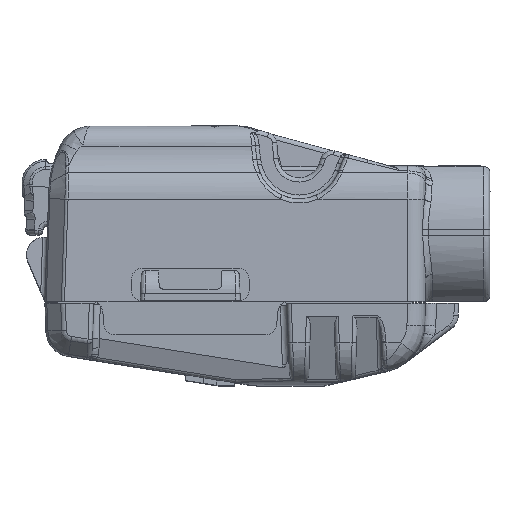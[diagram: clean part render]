
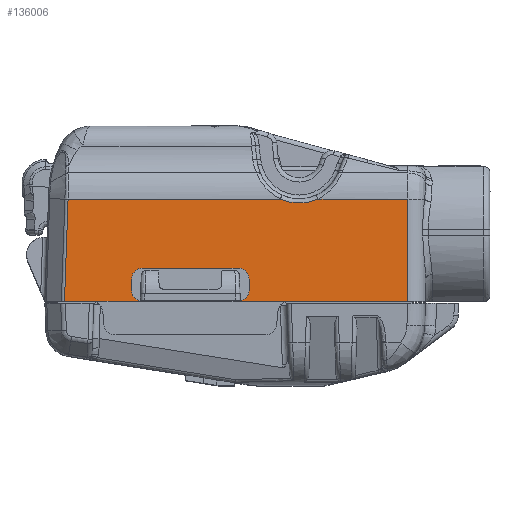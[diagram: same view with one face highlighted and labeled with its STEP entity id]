
A CAD part, top view. The second image highlights one B-rep face of the part: STEP entity #136006.
In plain terms, the highlighted planar face has unit normal (0, 0.018, 1).
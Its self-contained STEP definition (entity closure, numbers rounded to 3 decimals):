
#35521=CARTESIAN_POINT('',(15.8,-1.15,8.05));
#35522=VERTEX_POINT('',#35521);
#35536=CARTESIAN_POINT('',(15.8,-1.15,8.05));
#35541=DIRECTION('',(-1.,0.,0.));
#35546=VECTOR('',#35541,1.);
#35551=LINE('',#35536,#35546);
#35556=CARTESIAN_POINT('',(10.439,-1.15,8.05));
#35557=VERTEX_POINT('',#35556);
#35561=EDGE_CURVE('',#35522,#35557,#35551,.T.);
#135211=CARTESIAN_POINT('',(15.8,3.459,7.97));
#135212=VERTEX_POINT('',#135211);
#135226=CARTESIAN_POINT('',(15.8,-1.15,8.05));
#135231=DIRECTION('',(0.,1.,-0.017));
#135236=VECTOR('',#135231,1.);
#135241=LINE('',#135226,#135236);
#135246=EDGE_CURVE('',#35522,#135212,#135241,.T.);
#135451=DIRECTION('',(-0.,0.017,1.));
#135456=CARTESIAN_POINT('',(0.333,-1.15,8.05));
#135461=DIRECTION('',(1.,0.,0.));
#135466=AXIS2_PLACEMENT_3D('',#135456,#135451,#135461);
#135471=PLANE('',#135466);
#135476=CARTESIAN_POINT('',(15.8,3.459,7.97));
#135481=DIRECTION('',(-1.,0.,0.));
#135486=VECTOR('',#135481,1.);
#135491=LINE('',#135476,#135486);
#135496=CARTESIAN_POINT('',(11.75,3.459,7.97));
#135497=VERTEX_POINT('',#135496);
#135501=EDGE_CURVE('',#135212,#135497,#135491,.T.);
#135506=ORIENTED_EDGE('',*,*,#135501,.T.);
#135511=CARTESIAN_POINT('',(10.9,5.368,7.936));
#135516=DIRECTION('',(0.,0.017,1.));
#135521=DIRECTION('',(-0.407,-0.913,0.016));
#135526=AXIS2_PLACEMENT_3D('',#135511,#135516,#135521);
#135531=CIRCLE('',#135526,2.09);
#135536=CARTESIAN_POINT('',(10.05,3.459,7.97));
#135537=VERTEX_POINT('',#135536);
#135541=EDGE_CURVE('',#135537,#135497,#135531,.T.);
#135546=ORIENTED_EDGE('',*,*,#135541,.F.);
#135551=CARTESIAN_POINT('',(10.05,3.459,7.97));
#135556=DIRECTION('',(-1.,0.,0.));
#135561=VECTOR('',#135556,1.);
#135566=LINE('',#135551,#135561);
#135571=CARTESIAN_POINT('',(0.494,3.459,7.97));
#135572=VERTEX_POINT('',#135571);
#135576=EDGE_CURVE('',#135537,#135572,#135566,.T.);
#135581=ORIENTED_EDGE('',*,*,#135576,.T.);
#135586=CARTESIAN_POINT('',(0.333,-1.15,8.05));
#135591=DIRECTION('',(0.035,0.999,-0.017));
#135596=VECTOR('',#135591,1.);
#135601=LINE('',#135586,#135596);
#135606=CARTESIAN_POINT('',(0.333,-1.15,8.05));
#135607=VERTEX_POINT('',#135606);
#135611=EDGE_CURVE('',#135607,#135572,#135601,.T.);
#135616=ORIENTED_EDGE('',*,*,#135611,.F.);
#135621=CARTESIAN_POINT('',(1.561,-1.15,8.05));
#135626=DIRECTION('',(-1.,0.,0.));
#135631=VECTOR('',#135626,1.);
#135636=LINE('',#135621,#135631);
#135641=CARTESIAN_POINT('',(1.561,-1.15,8.05));
#135642=VERTEX_POINT('',#135641);
#135646=EDGE_CURVE('',#135642,#135607,#135636,.T.);
#135651=ORIENTED_EDGE('',*,*,#135646,.F.);
#135656=CARTESIAN_POINT('',(3.85,-1.15,8.05));
#135661=DIRECTION('',(-1.,0.,0.));
#135666=VECTOR('',#135661,1.);
#135671=LINE('',#135656,#135666);
#135676=CARTESIAN_POINT('',(3.85,-1.15,8.05));
#135677=VERTEX_POINT('',#135676);
#135681=EDGE_CURVE('',#135677,#135642,#135671,.T.);
#135686=ORIENTED_EDGE('',*,*,#135681,.F.);
#135691=CARTESIAN_POINT('',(3.849,-0.651,8.041));
#135696=DIRECTION('',(0.,0.017,1.));
#135701=DIRECTION('',(-1.,0.001,0.));
#135706=AXIS2_PLACEMENT_3D('',#135691,#135696,#135701);
#135711=CIRCLE('',#135706,0.499);
#135716=CARTESIAN_POINT('',(3.35,-0.65,8.041));
#135717=VERTEX_POINT('',#135716);
#135721=EDGE_CURVE('',#135717,#135677,#135711,.T.);
#135726=ORIENTED_EDGE('',*,*,#135721,.F.);
#135731=CARTESIAN_POINT('',(3.35,-0.15,8.033));
#135736=DIRECTION('',(0.,-1.,0.017));
#135741=VECTOR('',#135736,1.);
#135746=LINE('',#135731,#135741);
#135751=CARTESIAN_POINT('',(3.35,-0.15,8.033));
#135752=VERTEX_POINT('',#135751);
#135756=EDGE_CURVE('',#135752,#135717,#135746,.T.);
#135761=ORIENTED_EDGE('',*,*,#135756,.F.);
#135766=CARTESIAN_POINT('',(3.85,-0.15,8.033));
#135771=DIRECTION('',(0.,0.017,1.));
#135776=DIRECTION('',(0.,1.,-0.017));
#135781=AXIS2_PLACEMENT_3D('',#135766,#135771,#135776);
#135786=CIRCLE('',#135781,0.5);
#135791=CARTESIAN_POINT('',(3.85,0.35,8.024));
#135792=VERTEX_POINT('',#135791);
#135796=EDGE_CURVE('',#135792,#135752,#135786,.T.);
#135801=ORIENTED_EDGE('',*,*,#135796,.F.);
#135806=CARTESIAN_POINT('',(8.15,0.35,8.024));
#135811=DIRECTION('',(-1.,0.,0.));
#135816=VECTOR('',#135811,1.);
#135821=LINE('',#135806,#135816);
#135826=CARTESIAN_POINT('',(8.15,0.35,8.024));
#135827=VERTEX_POINT('',#135826);
#135831=EDGE_CURVE('',#135827,#135792,#135821,.T.);
#135836=ORIENTED_EDGE('',*,*,#135831,.F.);
#135841=CARTESIAN_POINT('',(8.151,-0.149,8.033));
#135846=DIRECTION('',(0.,0.017,1.));
#135851=DIRECTION('',(1.,-0.001,0.));
#135856=AXIS2_PLACEMENT_3D('',#135841,#135846,#135851);
#135861=CIRCLE('',#135856,0.499);
#135866=CARTESIAN_POINT('',(8.65,-0.15,8.033));
#135867=VERTEX_POINT('',#135866);
#135871=EDGE_CURVE('',#135867,#135827,#135861,.T.);
#135876=ORIENTED_EDGE('',*,*,#135871,.F.);
#135881=CARTESIAN_POINT('',(8.65,-0.15,8.033));
#135886=DIRECTION('',(0.,-1.,0.017));
#135891=VECTOR('',#135886,1.);
#135896=LINE('',#135881,#135891);
#135901=CARTESIAN_POINT('',(8.65,-0.65,8.041));
#135902=VERTEX_POINT('',#135901);
#135906=EDGE_CURVE('',#135867,#135902,#135896,.T.);
#135911=ORIENTED_EDGE('',*,*,#135906,.T.);
#135916=CARTESIAN_POINT('',(8.15,-0.65,8.041));
#135921=DIRECTION('',(0.,0.017,1.));
#135926=DIRECTION('',(0.,-1.,0.017));
#135931=AXIS2_PLACEMENT_3D('',#135916,#135921,#135926);
#135936=CIRCLE('',#135931,0.5);
#135941=CARTESIAN_POINT('',(8.15,-1.15,8.05));
#135942=VERTEX_POINT('',#135941);
#135946=EDGE_CURVE('',#135942,#135902,#135936,.T.);
#135951=ORIENTED_EDGE('',*,*,#135946,.F.);
#135956=CARTESIAN_POINT('',(10.439,-1.15,8.05));
#135961=DIRECTION('',(-1.,0.,0.));
#135966=VECTOR('',#135961,1.);
#135971=LINE('',#135956,#135966);
#135976=EDGE_CURVE('',#35557,#135942,#135971,.T.);
#135981=ORIENTED_EDGE('',*,*,#135976,.F.);
#135986=ORIENTED_EDGE('',*,*,#35561,.F.);
#135991=ORIENTED_EDGE('',*,*,#135246,.T.);
#135996=EDGE_LOOP('',(#135506,#135546,#135581,#135616,#135651,#135686,#135726,#135761,#135801,#135836,#135876,#135911,#135951,#135981,#135986,#135991));
#136001=FACE_OUTER_BOUND('',#135996,.T.);
#136006=ADVANCED_FACE('',(#136001),#135471,.T.);
